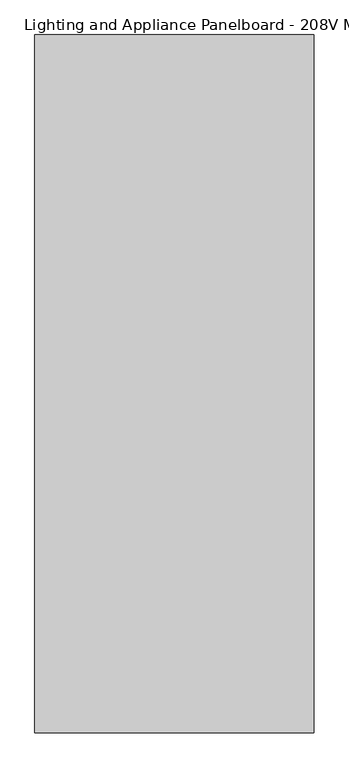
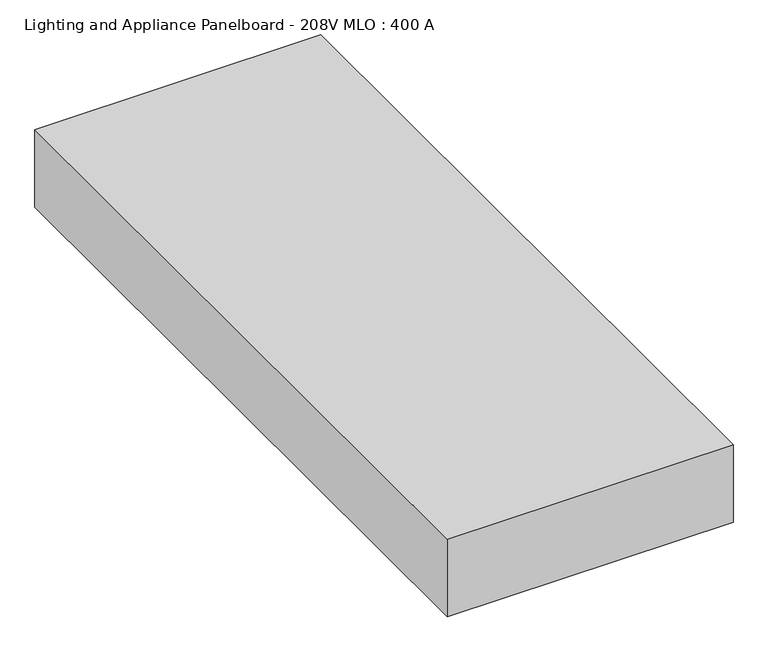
"""IFC4 building model written with IfcOpenShell, lengths in millimetres: proxy geometry, Lighting and Appliance Panelboard - 208V MLO : 400 A."""

from ifc_helpers import new_model, si_unit, frame, origin, place, context, project, spatial, polyline, outline, extrude, source, transform, mapped, element, save


def lighting_and_appliance_panelboard_208v_mlo_400_a_e20a6398(model_context):
    return source(origin(), model_context, "Body", "SweptSolid", [
        extrude(outline(polyline([(254.0, 635.0), (254.0, -635.0), (-254.0, -635.0), (-254.0, 635.0), (254.0, 635.0)])), frame((0.0, 0.0, -146.0), z_axis=(0.0, 0.0, 1.0), x_axis=(1.0, 0.0, 0.0)), (0.0, 0.0, 1.0), 146.0),
    ])


if __name__ == "__main__":
    model = new_model("IFC4")
    model_context = context("Model", 3, world=origin())
    ifc_project = project(units=[si_unit("LENGTHUNIT", "METRE", prefix="MILLI")], contexts=[model_context])
    site = spatial("IfcSite", under=ifc_project)
    building = spatial("IfcBuilding", under=site)
    placement = place(None, origin())
    lighting_and_appliance_panelboard_208v_mlo_400_a_shape = lighting_and_appliance_panelboard_208v_mlo_400_a_e20a6398(model_context)
    element("IfcBuildingElementProxy", 1, Name="Lighting and Appliance Panelboard - 208V MLO : 400 A", ObjectType="Lighting and Appliance Panelboard - 208V MLO : 400 A", at=placement, inside=building, context=model_context, shape_type="MappedRepresentation", body=[
        mapped(lighting_and_appliance_panelboard_208v_mlo_400_a_shape, transform((0.0, 0.0, 0.0), x_axis=(1.0, 0.0, 0.0), y_axis=(0.0, 1.0, 0.0), z_axis=(0.0, 0.0, 1.0))),
    ])
    save(model, "model.ifc")
